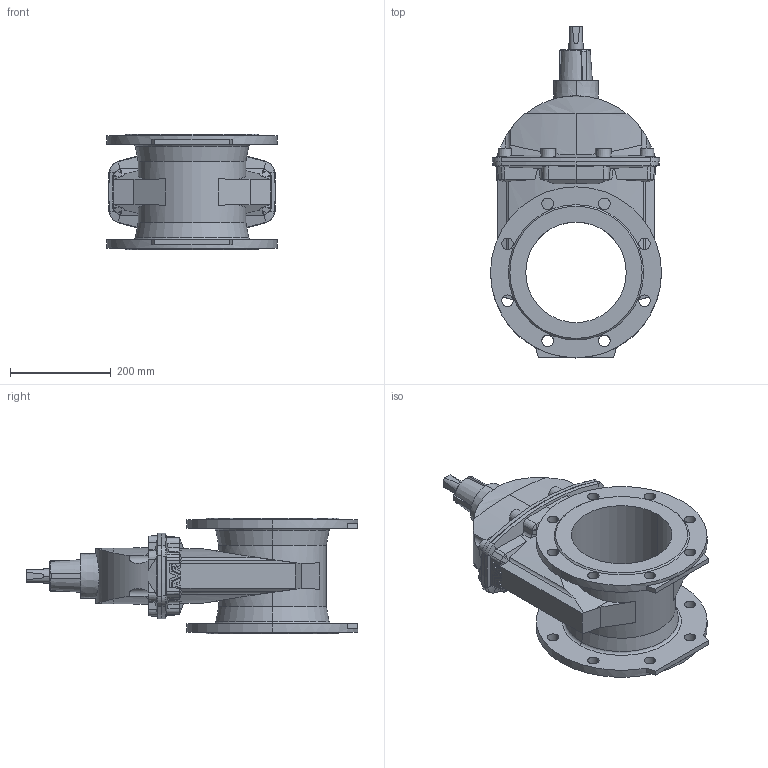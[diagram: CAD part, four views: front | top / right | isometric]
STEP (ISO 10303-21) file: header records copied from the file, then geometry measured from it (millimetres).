
FILE_DESCRIPTION (( 'STEP AP203' ), '1' );
FILE_NAME ('O_06_80_DN200_X0XXX99_REV01.step', '2020-03-25T10:00:05', ( '' ), ( '' ), 'SwSTEP 2.0', 'SolidWorks 2019', '' );
FILE_SCHEMA (( 'CONFIG_CONTROL_DESIGN' ));
Length unit declared in the file: millimetre
Products named in the file (1): O_06_80_DN200_X0XXX99_REV01
Bounding box: 340 x 660.06 x 230 mm (x, y, z)
Volume: 12024567.8 mm3; surface area: 923784 mm2
Topology: 1 solids, 1 shells, 378 faces, 1049 edges, 671 vertices
Faces by surface type: plane 156, cylinder 110, cone 94, sphere 10, torus 8
Entity records: 13300 total; most frequent: CARTESIAN_POINT 3859, ORIENTED_EDGE 2074, DIRECTION 1851, EDGE_CURVE 1037, AXIS2_PLACEMENT_3D 673, VERTEX_POINT 671, VECTOR 505, LINE 505
